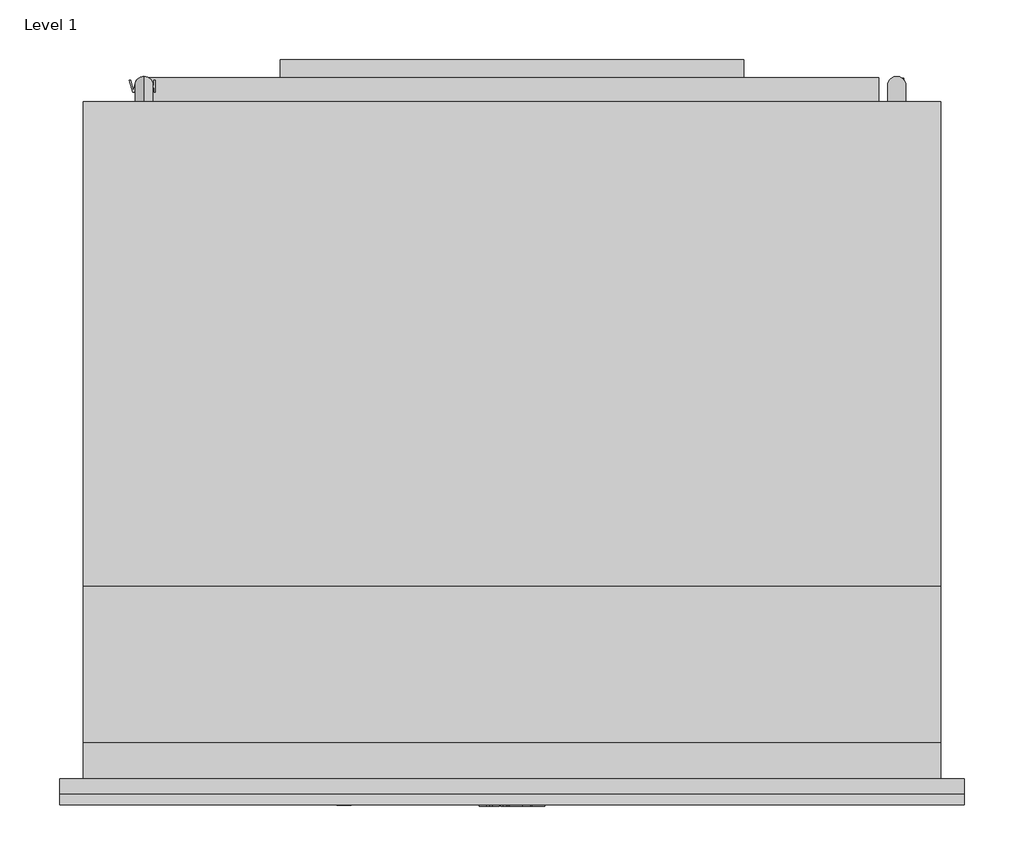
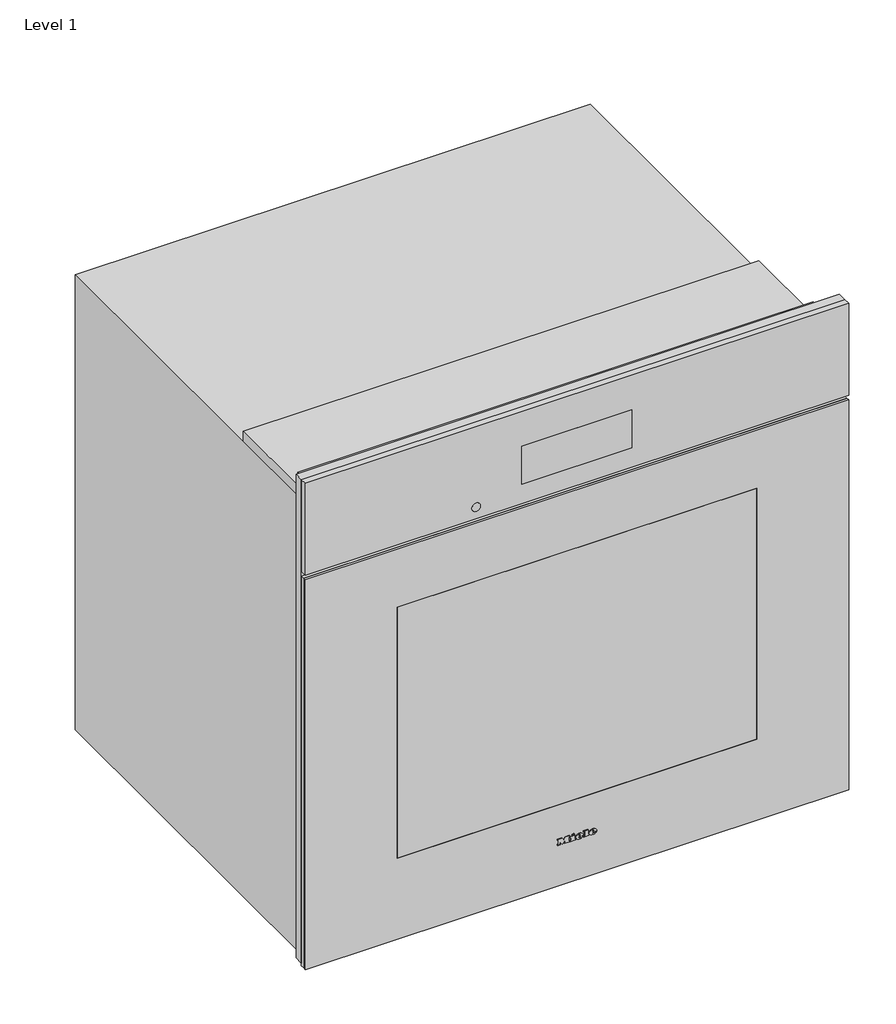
# One storey: 1 proxy.
"""IFC4 building model written with IfcOpenShell, lengths in millimetres."""

from ifc_helpers import new_model, si_unit, origin, place, context, project, spatial, transform, mapped, element, save
from components import specialty_equipment_b9000403

model = new_model("IFC4")

# Units and contexts
model_context = context("Model", 3, world=origin())
ifc_project = project(units=[si_unit("LENGTHUNIT", "METRE", prefix="MILLI")], contexts=[model_context])

# Site, building, storey
site = spatial("IfcSite", under=ifc_project)
building = spatial("IfcBuilding", under=site)
storey = spatial("IfcBuildingStorey", under=building, Name="Level 1", Elevation=0.0)

# Proxy
placement = place(None, origin())
specialty_equipment_shape = specialty_equipment_b9000403(model_context)
element("IfcBuildingElementProxy", 1, Name="11805630_USA_H7880BPX_GRGR : 22788075_USA_11805630_H7880BPX_GRGR", ObjectType="11805630_USA_H7880BPX_GRGR : 22788075_USA_11805630_H7880BPX_GRGR", at=placement, inside=storey, context=model_context, shape_type="MappedRepresentation", body=[
    mapped(specialty_equipment_shape, transform((0.0, 0.0, 0.0), x_axis=(1.0, 0.0, 0.0), y_axis=(0.0, 1.0, 0.0), z_axis=(0.0, 0.0, 1.0))),
])

save(model, "model.ifc")
